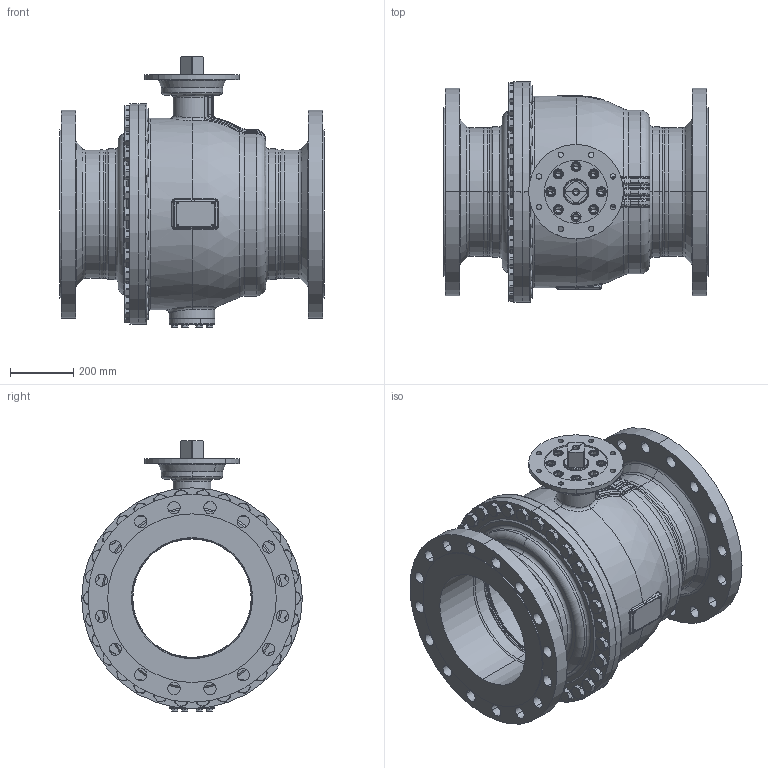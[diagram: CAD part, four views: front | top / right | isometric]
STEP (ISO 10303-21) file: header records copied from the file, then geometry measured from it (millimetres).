
FILE_DESCRIPTION((''),'2;1');
FILE_NAME('KHI-F_400_PN040-F25-4_SW0001','2026-02-05T16:02:31',('fischerkl'),('KLINGER'),'CREO PARAMETRIC BY PTC INC, 2023014','CREO PARAMETRIC BY PTC INC, 2023014','');
FILE_SCHEMA(('CONFIG_CONTROL_DESIGN'));
Products named in the file (1): KHI-F_400_PN040-F25-4_SW0001
Bounding box: 838 x 700 x 858.3 mm (x, y, z)
Volume: 65268825.9 mm3; surface area: 7380458.2 mm2
Topology: 1 solids, 4 shells, 3540 faces, 8918 edges, 5569 vertices
Faces by surface type: plane 1754, cylinder 845, cone 504, torus 307, bspline 99, sphere 31
Entity records: 151764 total; most frequent: CARTESIAN_POINT 67517, ORIENTED_EDGE 17784, DIRECTION 17449, EDGE_CURVE 8892, AXIS2_PLACEMENT_3D 6699, VERTEX_POINT 5569, VECTOR 4051, LINE 4051
